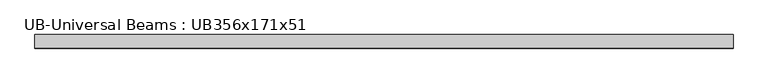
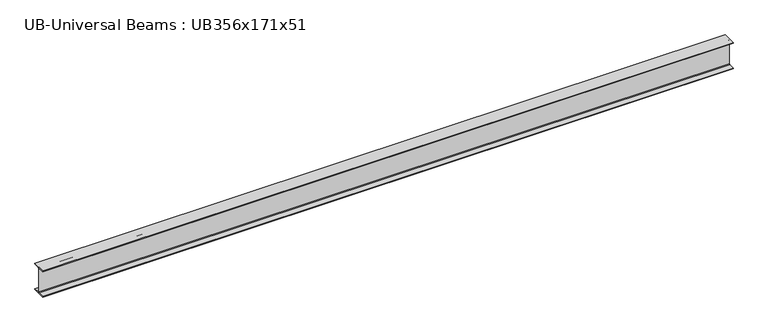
"""IFC4 building model written with IfcOpenShell, lengths in millimetres: beam geometry, UB-Universal Beams : UB356x171x51."""

from ifc_helpers import new_model, si_unit, point, frame, frame_2d, origin, place, context, project, spatial, polyline, circle_curve, trimmed, segment, composite_curve, outline, extrude, source, transform, mapped, element, save


def ub_universal_beams_ub356x171x51_d8f4cdde(model_context):
    return source(origin(), model_context, "Body", "SweptSolid", [
        extrude(outline(composite_curve([segment(polyline([(85.75, -166.0), (85.75, -177.5), (-85.75, -177.5), (-85.75, -166.0), (-13.9, -166.0)]), True, "CONTINUOUS"), segment(trimmed(circle_curve(frame_2d((-13.9, -155.8)), 10.2), [point((-13.9, -166.0))], [point((-3.7, -155.8))], True, "CARTESIAN"), True, "CONTINUOUS"), segment(polyline([(-3.7, -155.8), (-3.7, 155.8)]), True, "CONTINUOUS"), segment(trimmed(circle_curve(frame_2d((-13.9, 155.8)), 10.2), [point((-3.7, 155.8))], [point((-13.9, 166.0))], True, "CARTESIAN"), True, "CONTINUOUS"), segment(polyline([(-13.9, 166.0), (-85.75, 166.0), (-85.75, 177.5), (85.75, 177.5), (85.75, 166.0), (13.9, 166.0)]), True, "CONTINUOUS"), segment(trimmed(circle_curve(frame_2d((13.9, 155.8)), 10.2), [point((13.9, 166.0))], [point((3.7, 155.8))], True, "CARTESIAN"), True, "CONTINUOUS"), segment(polyline([(3.7, 155.8), (3.7, -155.8)]), True, "CONTINUOUS"), segment(trimmed(circle_curve(frame_2d((13.9, -155.8)), 10.2), [point((3.7, -155.8))], [point((13.9, -166.0))], True, "CARTESIAN"), True, "CONTINUOUS"), segment(polyline([(13.9, -166.0), (85.75, -166.0)]), True, "CONTINUOUS")], self_intersect=False)), frame((-4405.3, 0.0, 0.0), z_axis=(1.0, 0.0, 0.0), x_axis=(0.0, 1.0, 0.0)), (0.0, 0.0, 1.0), 8811.9),
    ])


if __name__ == "__main__":
    model = new_model("IFC4")
    model_context = context("Model", 3, world=origin())
    ifc_project = project(units=[si_unit("LENGTHUNIT", "METRE", prefix="MILLI")], contexts=[model_context])
    site = spatial("IfcSite", under=ifc_project)
    building = spatial("IfcBuilding", under=site)
    placement = place(None, origin())
    ub_universal_beams_ub356x171x51_shape = ub_universal_beams_ub356x171x51_d8f4cdde(model_context)
    element("IfcBeam", 1, ObjectType="UB-Universal Beams : UB356x171x51", at=placement, inside=building, context=model_context, shape_type="MappedRepresentation", body=[
        mapped(ub_universal_beams_ub356x171x51_shape, transform((0.0, 0.0, 0.0), x_axis=(1.0, 0.0, 0.0), y_axis=(0.0, 1.0, 0.0), z_axis=(0.0, 0.0, 1.0))),
    ])
    save(model, "model.ifc")
